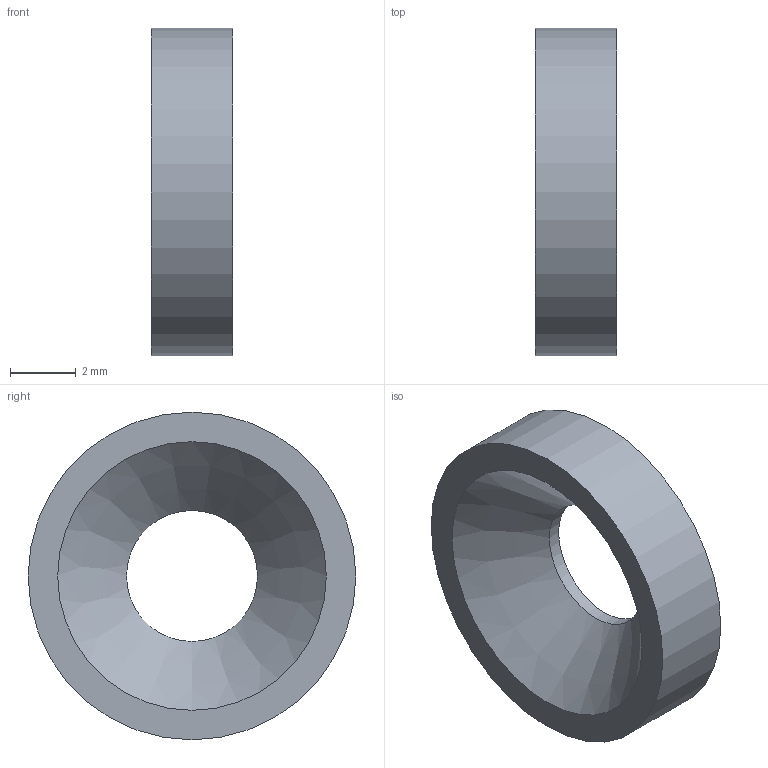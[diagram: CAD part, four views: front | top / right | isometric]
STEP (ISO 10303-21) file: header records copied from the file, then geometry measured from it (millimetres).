
FILE_DESCRIPTION(/* description */ ('STEP AP214'),/* implementation_level */ '2;1');
FILE_NAME(/* name */ 'Mounting Accessory GN 753.2-4-5-2_5-U-NI',/* time_stamp */ '2024-12-09T13:58:50+01:00',/* author */ ('License CC BY-ND 4.0'),/* organization */ ('CADENAS'),/* preprocessor_version */ 'ST-DEVELOPER v19.3',/* originating_system */ 'PARTsolutions',/* authorisation */ ' ');
FILE_SCHEMA (('AUTOMOTIVE_DESIGN {1 0 10303 214 3 1 1}'));
Length unit declared in the file: millimetre
Products named in the file (1): Mounting Accessory GN 753.2-4-5-2,5-U-NI
Bounding box: 2.5 x 10 x 10 mm (x, y, z)
Volume: 127.5 mm3; surface area: 232.2 mm2
Topology: 1 solids, 1 shells, 5 faces, 8 edges, 5 vertices
Faces by surface type: plane 2, cylinder 2, cone 1
Full cylindrical faces by diameter (mm): 4 x1, 10 x1
Entity records: 138 total; most frequent: DIRECTION 22, CARTESIAN_POINT 16, AXIS2_PLACEMENT_3D 11, ORIENTED_EDGE 10, EDGE_LOOP 10, FACE_BOUND 10, EDGE_CURVE 5, VERTEX_POINT 5
